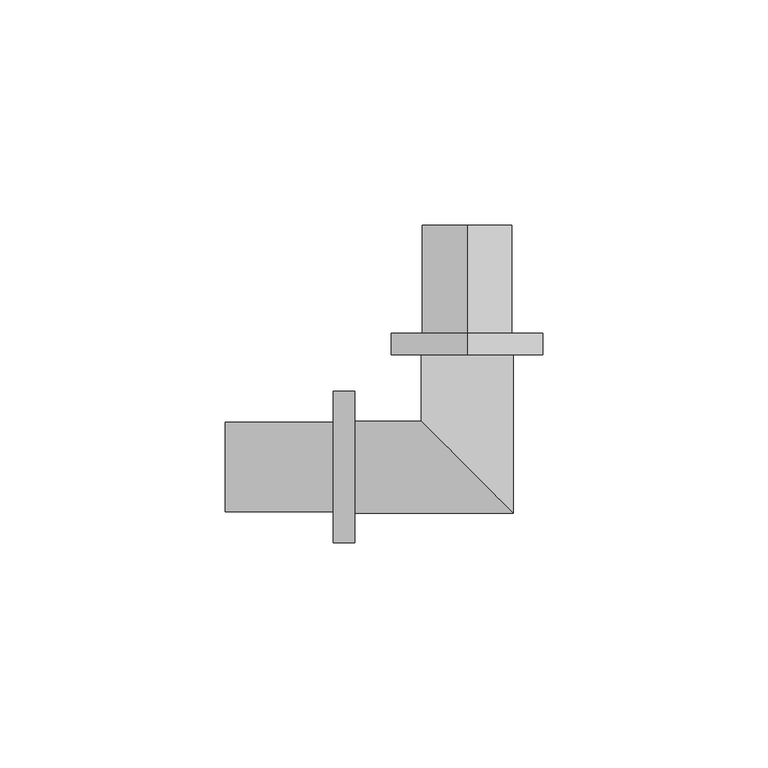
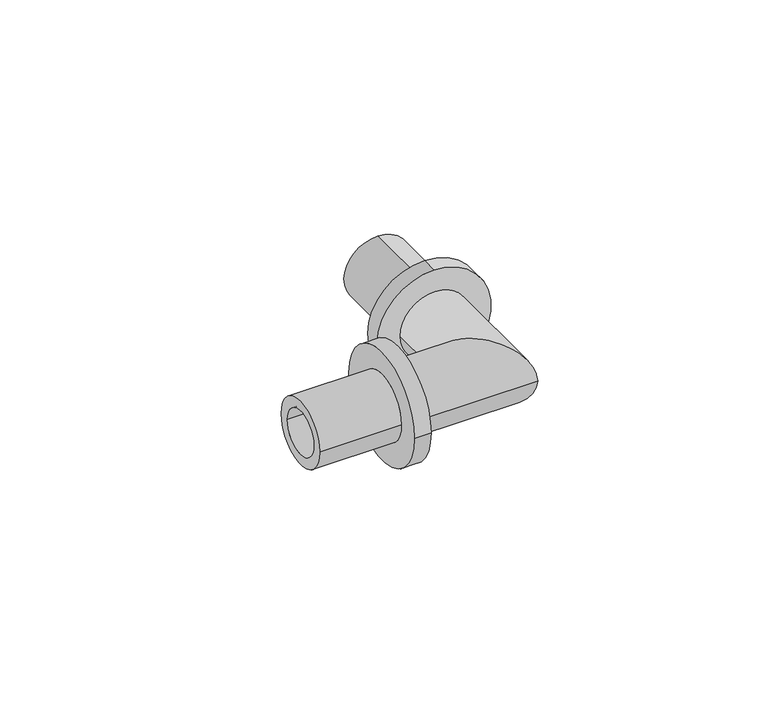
"""IFC4 building model written with IfcOpenShell, lengths in millimetres: pipe fitting geometry, RAUTITAN_Corner_PX : RTI PX C DN."""

from ifc_helpers import new_model, si_unit, frame, origin, place, context, project, spatial, polyline, circle_curve, ellipse_curve, source, transform, mapped, element, save
from ifc_brep_helpers import plane_surface, cylinder_surface, revolved_surface, advanced_brep


def pipe_fitting_854aaea1(model_context):
    return source(origin(), model_context, "Body", "AdvancedBrep", [
        advanced_brep(
        [(0.0, 29.8, 16.85), (0.0, 29.8, -16.85), (0.0, 25.0, -16.85), (0.0, 25.0, 16.85), (0.0, 53.8, 9.95), (0.0, 53.8, -9.95), (0.0, 29.8, -9.95), (0.0, 29.8, 9.95), (0.0, 25.0, 6.75), (0.0, 25.0, -6.75), (0.0, 53.8, -6.75), (0.0, 53.8, 6.75)],
        [
            (0, 1, circle_curve(frame((0.0, 29.8, 0.0), z_axis=(0.0, -1.0, 0.0), x_axis=(0.0, 0.0, -1.0)), 16.85)),
            (1, 2),
            (2, 3, circle_curve(frame((0.0, 25.0, 0.0), z_axis=(0.0, 1.0, 0.0), x_axis=(0.0, 0.0, -1.0)), 16.85)),
            (3, 0),
            (4, 5, circle_curve(frame((0.0, 53.8, 0.0), z_axis=(0.0, -1.0, 0.0), x_axis=(0.0, 0.0, -1.0)), 9.95)),
            (5, 6),
            (6, 7, circle_curve(frame((0.0, 29.8, 0.0), z_axis=(0.0, 1.0, 0.0), x_axis=(0.0, 0.0, -1.0)), 9.95)),
            (7, 4),
            (8, 9, circle_curve(frame((0.0, 25.0, 0.0), z_axis=(0.0, -1.0, 0.0), x_axis=(0.0, 0.0, -1.0)), 6.75)),
            (9, 10),
            (10, 11, circle_curve(frame((0.0, 53.8, 0.0), z_axis=(0.0, 1.0, 0.0), x_axis=(0.0, 0.0, -1.0)), 6.75)),
            (11, 8),
            (1, 0, circle_curve(frame((0.0, 29.8, 0.0), z_axis=(0.0, -1.0, 0.0), x_axis=(0.0, 0.0, 1.0)), 16.85)),
            (3, 2, circle_curve(frame((0.0, 25.0, 0.0), z_axis=(0.0, 1.0, 0.0), x_axis=(0.0, 0.0, 1.0)), 16.85)),
            (6, 7, circle_curve(frame((0.0, 29.8, 0.0), z_axis=(0.0, -1.0, 0.0), x_axis=(0.0, 0.0, 1.0)), 9.95)),
            (5, 4, circle_curve(frame((0.0, 53.8, 0.0), z_axis=(0.0, -1.0, 0.0), x_axis=(0.0, 0.0, 1.0)), 9.95)),
            (10, 11, circle_curve(frame((0.0, 53.8, 0.0), z_axis=(0.0, -1.0, 0.0), x_axis=(0.0, 0.0, 1.0)), 6.75)),
            (9, 8, circle_curve(frame((0.0, 25.0, 0.0), z_axis=(0.0, -1.0, 0.0), x_axis=(0.0, 0.0, 1.0)), 6.75)),
        ],
        [
            cylinder_surface(frame((0.0, 25.0, 0.0), z_axis=(0.0, 1.0, 0.0), x_axis=(0.0, 0.0, -1.0)), 16.85),
            cylinder_surface(frame((0.0, 25.0, 0.0), z_axis=(0.0, 1.0, 0.0), x_axis=(0.0, 0.0, -1.0)), 9.95),
            revolved_surface(polyline([(0.0, 53.8, -6.75), (0.0, 25.0, -6.75)]), (0.0, 25.0, 0.0), (0.0, 1.0, 0.0)),
            cylinder_surface(frame((0.0, 25.0, 0.0), z_axis=(0.0, 1.0, 0.0), x_axis=(0.0, 0.0, 1.0)), 16.85),
            plane_surface(frame((0.0, 29.8, 0.0), z_axis=(0.0, 1.0, 0.0), x_axis=(0.0, 0.0, 1.0))),
            cylinder_surface(frame((0.0, 25.0, 0.0), z_axis=(0.0, 1.0, 0.0), x_axis=(0.0, 0.0, 1.0)), 9.95),
            plane_surface(frame((0.0, 53.8, 0.0), z_axis=(0.0, 1.0, 0.0), x_axis=(0.0, 0.0, 1.0))),
            revolved_surface(polyline([(0.0, 53.8, 6.75), (0.0, 25.0, 6.75)]), (0.0, 25.0, 0.0), (0.0, 1.0, 0.0)),
            plane_surface(frame((0.0, 25.0, 0.0), z_axis=(0.0, -1.0, 0.0), x_axis=(0.0, 0.0, 1.0))),
        ],
        [
            (0, [[1, 2, 3, 4]]),
            (1, [[5, 6, 7, 8]]),
            (2, [[9, 10, 11, 12]]),
            (3, [[13, -4, 14, -2]]),
            (4, [[-13, -1], [15, -7]]),
            (5, [[16, -8, -15, -6]]),
            (6, [[-16, -5], [17, -11]]),
            (7, [[18, -12, -17, -10]]),
            (8, [[-14, -3], [-18, -9]]),
        ],
    ),
        advanced_brep(
        [(-29.8, -16.85, 0.0), (-29.8, 16.85, 0.0), (-25.0, 16.85, 0.0), (-25.0, -16.85, 0.0), (-53.8, -9.95, 0.0), (-53.8, 9.95, 0.0), (-29.8, 9.95, 0.0), (-29.8, -9.95, 0.0), (-25.0, -6.75, 0.0), (-25.0, 6.75, 0.0), (-53.8, 6.75, 0.0), (-53.8, -6.75, 0.0)],
        [
            (0, 1, circle_curve(frame((-29.8, 0.0, 0.0), z_axis=(1.0, 0.0, 0.0), x_axis=(0.0, 1.0, 0.0)), 16.85)),
            (1, 2),
            (2, 3, circle_curve(frame((-25.0, 0.0, 0.0), z_axis=(-1.0, 0.0, 0.0), x_axis=(0.0, 1.0, 0.0)), 16.85)),
            (3, 0),
            (4, 5, circle_curve(frame((-53.8, 0.0, 0.0), z_axis=(1.0, 0.0, 0.0), x_axis=(0.0, 1.0, 0.0)), 9.95)),
            (5, 6),
            (6, 7, circle_curve(frame((-29.8, 0.0, 0.0), z_axis=(-1.0, 0.0, 0.0), x_axis=(0.0, 1.0, 0.0)), 9.95)),
            (7, 4),
            (8, 9, circle_curve(frame((-25.0, 0.0, 0.0), z_axis=(1.0, 0.0, 0.0), x_axis=(0.0, 1.0, 0.0)), 6.75)),
            (9, 10),
            (10, 11, circle_curve(frame((-53.8, 0.0, 0.0), z_axis=(-1.0, 0.0, 0.0), x_axis=(0.0, 1.0, 0.0)), 6.75)),
            (11, 8),
            (1, 0, circle_curve(frame((-29.8, 0.0, 0.0), z_axis=(1.0, 0.0, 0.0), x_axis=(0.0, -1.0, 0.0)), 16.85)),
            (3, 2, circle_curve(frame((-25.0, 0.0, 0.0), z_axis=(-1.0, 0.0, 0.0), x_axis=(0.0, -1.0, 0.0)), 16.85)),
            (6, 7, circle_curve(frame((-29.8, 0.0, 0.0), z_axis=(1.0, 0.0, 0.0), x_axis=(0.0, -1.0, 0.0)), 9.95)),
            (5, 4, circle_curve(frame((-53.8, 0.0, 0.0), z_axis=(1.0, 0.0, 0.0), x_axis=(0.0, -1.0, 0.0)), 9.95)),
            (10, 11, circle_curve(frame((-53.8, 0.0, 0.0), z_axis=(1.0, 0.0, 0.0), x_axis=(0.0, -1.0, 0.0)), 6.75)),
            (9, 8, circle_curve(frame((-25.0, 0.0, 0.0), z_axis=(1.0, 0.0, 0.0), x_axis=(0.0, -1.0, 0.0)), 6.75)),
        ],
        [
            cylinder_surface(frame((-25.0, 0.0, 0.0), z_axis=(-1.0, 0.0, 0.0), x_axis=(0.0, 1.0, 0.0)), 16.85),
            cylinder_surface(frame((-25.0, 0.0, 0.0), z_axis=(-1.0, 0.0, 0.0), x_axis=(0.0, 1.0, 0.0)), 9.95),
            revolved_surface(polyline([(-53.8, 6.75, 0.0), (-25.0, 6.75, 0.0)]), (-25.0, 0.0, 0.0), (-1.0, 0.0, 0.0)),
            cylinder_surface(frame((-25.0, 0.0, 0.0), z_axis=(-1.0, 0.0, 0.0), x_axis=(0.0, -1.0, 0.0)), 16.85),
            plane_surface(frame((-29.8, 0.0, 0.0), z_axis=(-1.0, 0.0, 0.0), x_axis=(0.0, -1.0, 0.0))),
            cylinder_surface(frame((-25.0, 0.0, 0.0), z_axis=(-1.0, 0.0, 0.0), x_axis=(0.0, -1.0, 0.0)), 9.95),
            plane_surface(frame((-53.8, 0.0, 0.0), z_axis=(-1.0, 0.0, 0.0), x_axis=(0.0, -1.0, 0.0))),
            revolved_surface(polyline([(-53.8, -6.75, 0.0), (-25.0, -6.75, 0.0)]), (-25.0, 0.0, 0.0), (-1.0, 0.0, 0.0)),
            plane_surface(frame((-25.0, 0.0, 0.0), z_axis=(1.0, 0.0, 0.0), x_axis=(0.0, -1.0, 0.0))),
        ],
        [
            (0, [[1, 2, 3, 4]]),
            (1, [[5, 6, 7, 8]]),
            (2, [[9, 10, 11, 12]]),
            (3, [[13, -4, 14, -2]]),
            (4, [[-13, -1], [15, -7]]),
            (5, [[16, -8, -15, -6]]),
            (6, [[-16, -5], [17, -11]]),
            (7, [[18, -12, -17, -10]]),
            (8, [[-14, -3], [-18, -9]]),
        ],
    ),
        advanced_brep(
        [(-25.0, -10.25, 0.0), (-25.0, 10.25, 0.0), (-25.0, -6.75, 0.0), (-25.0, 6.75, 0.0), (-6.75, 6.75, 0.0), (6.75, -6.75, 0.0), (10.25, 25.0, 0.0), (-10.25, 25.0, 0.0), (6.75, 25.0, 0.0), (-6.75, 25.0, 0.0), (10.25, -10.25, 0.0), (-10.25, 10.25, 0.0)],
        [
            (0, 1, circle_curve(frame((-25.0, 0.0, 0.0), z_axis=(-1.0, 0.0, 0.0), x_axis=(0.0, 1.0, 0.0)), 10.25)),
            (1, 0, circle_curve(frame((-25.0, 0.0, 0.0), z_axis=(-1.0, 0.0, 0.0), x_axis=(0.0, 1.0, 0.0)), 10.25)),
            (2, 3, circle_curve(frame((-25.0, 0.0, 0.0), z_axis=(1.0, 0.0, 0.0), x_axis=(0.0, 1.0, 0.0)), 6.75)),
            (3, 2, circle_curve(frame((-25.0, 0.0, 0.0), z_axis=(1.0, 0.0, 0.0), x_axis=(0.0, 1.0, 0.0)), 6.75)),
            (3, 4),
            (4, 5, ellipse_curve(frame((0.0, 0.0, 0.0), z_axis=(0.7071067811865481, 0.7071067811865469, 0.0), x_axis=(0.7071067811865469, -0.7071067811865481, 0.0)), 9.5459415, 6.75)),
            (5, 2),
            (5, 4, ellipse_curve(frame((0.0, 0.0, 0.0), z_axis=(0.7071067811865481, 0.7071067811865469, 0.0), x_axis=(0.7071067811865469, -0.7071067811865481, 0.0)), 9.5459415, 6.75)),
            (6, 7, circle_curve(frame((0.0, 25.0, 0.0), z_axis=(0.0, 1.0, 0.0), x_axis=(-1.0, 0.0, 0.0)), 10.25)),
            (7, 6, circle_curve(frame((0.0, 25.0, 0.0), z_axis=(0.0, 1.0, 0.0), x_axis=(-1.0, 0.0, 0.0)), 10.25)),
            (8, 9, circle_curve(frame((0.0, 25.0, 0.0), z_axis=(0.0, -1.0, 0.0), x_axis=(-1.0, 0.0, 0.0)), 6.75)),
            (9, 8, circle_curve(frame((0.0, 25.0, 0.0), z_axis=(0.0, -1.0, 0.0), x_axis=(-1.0, 0.0, 0.0)), 6.75)),
            (4, 9),
            (8, 5),
            (0, 10),
            (10, 11, ellipse_curve(frame((0.0, 0.0, 0.0), z_axis=(-0.7071067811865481, -0.7071067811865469, 0.0), x_axis=(-0.7071067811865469, 0.7071067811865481, 0.0)), 14.495689, 10.25)),
            (11, 1),
            (11, 10, ellipse_curve(frame((0.0, 0.0, 0.0), z_axis=(-0.7071067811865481, -0.7071067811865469, 0.0), x_axis=(-0.7071067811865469, 0.7071067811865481, 0.0)), 14.495689, 10.25)),
            (10, 6),
            (7, 11),
        ],
        [
            plane_surface(frame((-25.0, 0.0, 0.0), z_axis=(-1.0, 0.0, 0.0), x_axis=(0.0, 0.0, 1.0))),
            revolved_surface(polyline([(6.75, 6.75, 0.0), (-25.0, 6.75, 0.0)]), (-25.0, 0.0, 0.0), (1.0, 0.0, 0.0)),
            plane_surface(frame((0.0, 25.0, 0.0), z_axis=(0.0, 1.0, 0.0), x_axis=(0.0, 0.0, 1.0))),
            revolved_surface(polyline([(-6.75, 25.0, 0.0), (-6.75, -6.75, 0.0)]), (0.0, 0.0, 0.0), (0.0, 1.0, 0.0)),
            cylinder_surface(frame((-25.0, 0.0, 0.0), z_axis=(-1.0, 0.0, 0.0), x_axis=(0.0, 1.0, 0.0)), 10.25),
            cylinder_surface(frame((0.0, 0.0, 0.0), z_axis=(0.0, -1.0, 0.0), x_axis=(-1.0, 0.0, 0.0)), 10.25),
        ],
        [
            (0, [[1, 2], [3, 4]]),
            (1, [[-4, 5, 6, 7]]),
            (1, [[-3, -7, 8, -5]]),
            (2, [[9, 10], [11, 12]]),
            (3, [[-6, 13, -11, 14]]),
            (3, [[-8, -14, -12, -13]]),
            (4, [[-1, 15, 16, 17]]),
            (4, [[-2, -17, 18, -15]]),
            (5, [[-16, 19, -10, 20]]),
            (5, [[-18, -20, -9, -19]]),
        ],
    ),
    ])


if __name__ == "__main__":
    model = new_model("IFC4")
    model_context = context("Model", 3, world=origin())
    ifc_project = project(units=[si_unit("LENGTHUNIT", "METRE", prefix="MILLI")], contexts=[model_context])
    site = spatial("IfcSite", under=ifc_project)
    building = spatial("IfcBuilding", under=site)
    placement = place(None, origin())
    pipe_fitting_shape = pipe_fitting_854aaea1(model_context)
    element("IfcPipeFitting", 1, ObjectType="RAUTITAN_Corner_PX : RTI PX C DN", at=placement, inside=building, context=model_context, shape_type="MappedRepresentation", body=[
        mapped(pipe_fitting_shape, transform((0.0, 0.0, 0.0), x_axis=(1.0, 0.0, 0.0), y_axis=(0.0, 1.0, 0.0), z_axis=(0.0, 0.0, 1.0))),
    ])
    save(model, "model.ifc")
